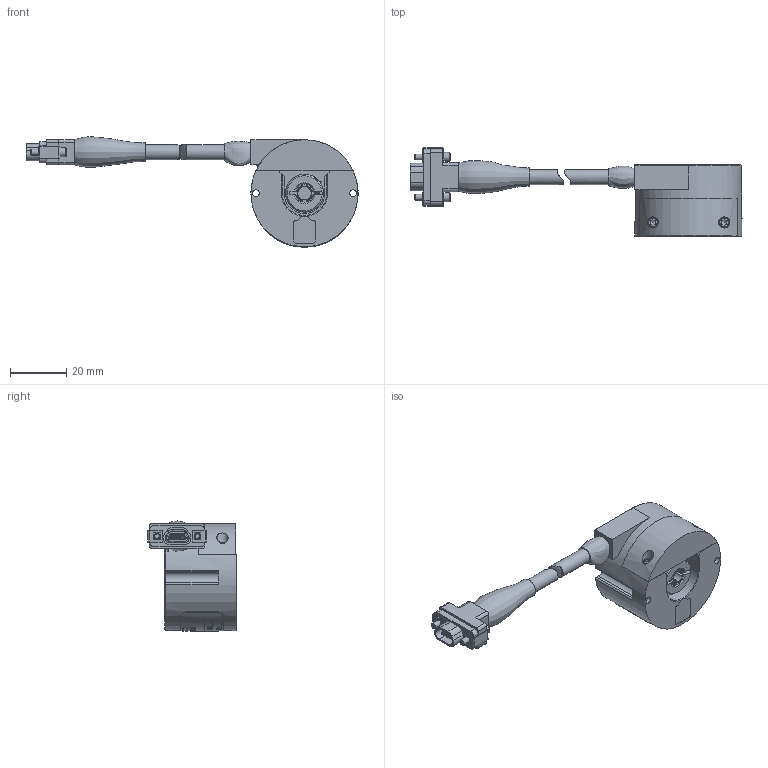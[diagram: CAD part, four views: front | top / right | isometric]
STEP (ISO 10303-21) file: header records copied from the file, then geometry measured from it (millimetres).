
FILE_DESCRIPTION (( 'STEP AP214' ), '1' );
FILE_NAME ('MKA24_188P1M1DxL.STEP', '2020-04-01T13:25:56', ( '' ), ( '' ), 'SwSTEP 2.0', 'SolidWorks 2019', '' );
FILE_SCHEMA (( 'AUTOMOTIVE_DESIGN' ));
Length unit declared in the file: inch
Products named in the file (5): NAS1352_NAS1352C02-4; MKA24_188P1M1DxL; MKE Readhead Assy, Left Exit; MKE Disk Hub Assy, .1875 in; Front Cover
Assembly tree (5 placements, depth 2):
  MKA24_188P1M1DxL
    MKE Readhead Assy, Left Exit
    MKE Disk Hub Assy, .1875 in
    Front Cover
    NAS1352_NAS1352C02-4  x2
Bounding box: 118.1 x 31.37 x 39.2 mm (x, y, z)
Volume: 27342.5 mm3; surface area: 15174 mm2
Topology: 6 solids, 6 shells, 2220 faces, 5830 edges, 3814 vertices
Faces by surface type: plane 1392, cylinder 357, bspline 312, cone 156, torus 3
Full cylindrical faces by diameter (mm): 0.564 x9, 0.813 x9, 1.3 x2, 1.58 x2, 1.778 x2, 2.08 x2, 2.1 x4, 2.261 x1, 2.3 x2, 2.36 x2, 2.388 x2, 2.438 x7, 3.18 x2, 3.556 x3, 3.969 x2, 4.763 x1, 5.309 x2, 6.35 x1, 7.62 x1, 13.462 x1, 27.178 x1, 38.1 x1
Entity records: 125027 total; most frequent: CARTESIAN_POINT 47008, ORIENTED_EDGE 10958, DIRECTION 9268, EDGE_CURVE 5479, VERTEX_POINT 3682, LINE 3322, VECTOR 3322, AXIS2_PLACEMENT_3D 2973
